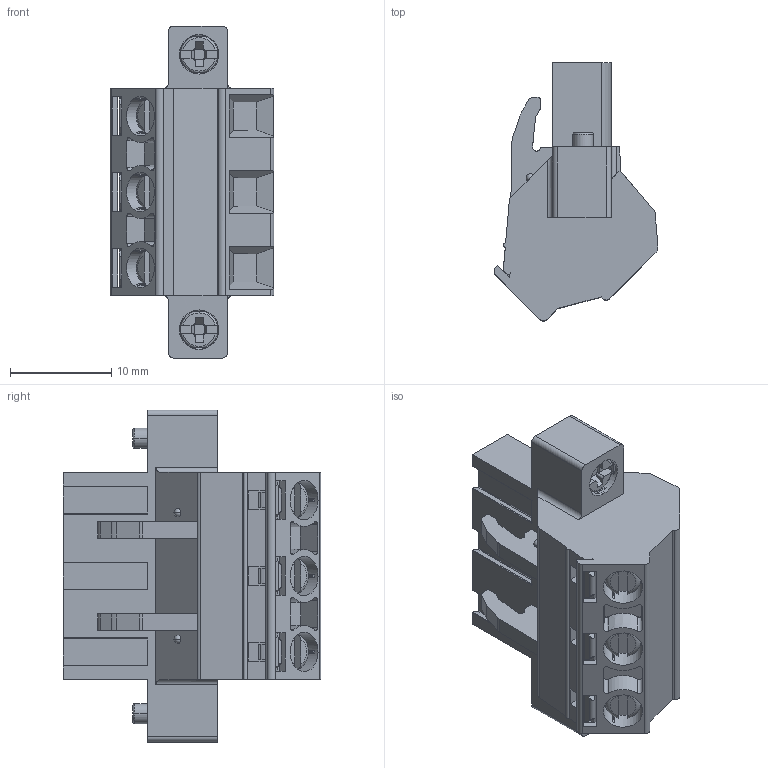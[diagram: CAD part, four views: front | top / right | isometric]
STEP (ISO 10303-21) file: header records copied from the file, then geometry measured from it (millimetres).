
FILE_DESCRIPTION((''),'2;1');
FILE_NAME('111','2019-04-17T',('zhenbing.lai'),(''),'CREO PARAMETRIC BY PTC INC, 2016260','CREO PARAMETRIC BY PTC INC, 2016260','');
FILE_SCHEMA(('CONFIG_CONTROL_DESIGN'));
Length unit declared in the file: millimetre
Products named in the file (1): 111
Bounding box: 16.19 x 25.48 x 32.8 mm (x, y, z)
Volume: 4870.3 mm3; surface area: 3334.7 mm2
Topology: 1 solids, 3 shells, 612 faces, 1794 edges, 1196 vertices
Faces by surface type: plane 441, cylinder 111, cone 42, torus 14, sphere 4
Entity records: 21377 total; most frequent: CARTESIAN_POINT 5065, ORIENTED_EDGE 3580, DIRECTION 3185, EDGE_CURVE 1790, VECTOR 1249, LINE 1249, VERTEX_POINT 1196, AXIS2_PLACEMENT_3D 968
